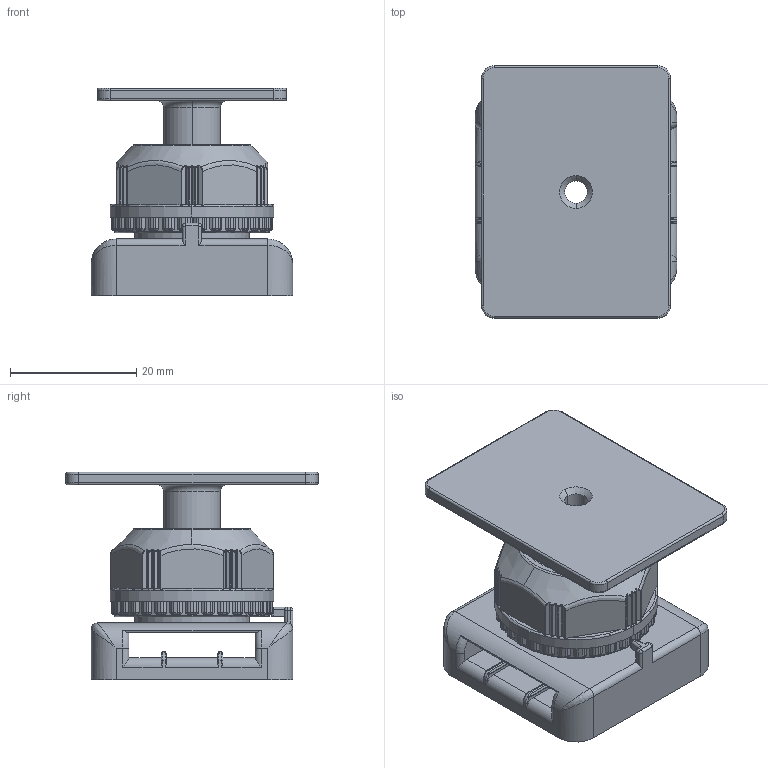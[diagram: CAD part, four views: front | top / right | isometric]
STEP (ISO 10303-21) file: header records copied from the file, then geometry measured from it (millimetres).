
FILE_DESCRIPTION(('Creo Elements/Direct Modeling STEP Export'),'2;1');
FILE_NAME('H22-0005-CL903-00_CH-TMH3.stp','2023-06-07T15:40:19',(''),(''),'Creo Elements/Direct Modeling STEP processor for AP214 (Solid Model)','Creo Elements/Direct Modeling 20.3B 05-Dec-2020 (C) Parametric Technology GmbH','');
FILE_SCHEMA(('AUTOMOTIVE_DESIGN { 1 0 10303 214 1 1 1 1 }'));
Length unit declared in the file: millimetre
Products named in the file (4): Stand; Dome nut; Fixing base; CH-TMH3
Assembly tree (3 placements, depth 2):
  CH-TMH3
    Fixing base
    Dome nut
    Stand
Bounding box: 32 x 40 x 32.91 mm (x, y, z)
Volume: 13687.5 mm3; surface area: 12154.3 mm2
Topology: 3 solids, 3 shells, 930 faces, 2419 edges, 1497 vertices
Faces by surface type: cylinder 295, plane 251, bspline 225, torus 137, cone 14, sphere 8
Entity records: 51245 total; most frequent: CARTESIAN_POINT 30479, ORIENTED_EDGE 4818, DIRECTION 3536, EDGE_CURVE 2409, VERTEX_POINT 1497, AXIS2_PLACEMENT_3D 1371, EDGE_LOOP 952, FACE_OUTER_BOUND 930
